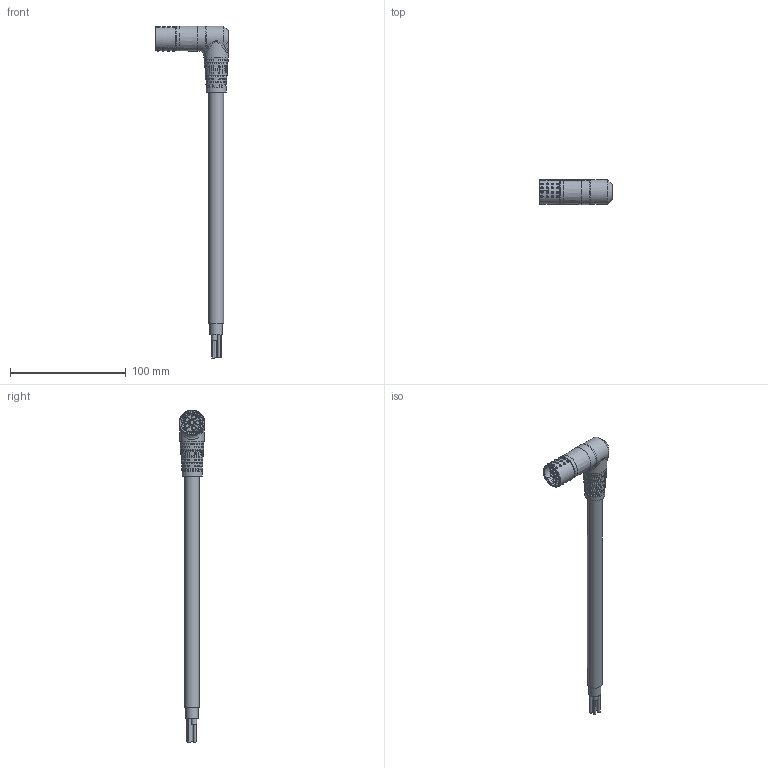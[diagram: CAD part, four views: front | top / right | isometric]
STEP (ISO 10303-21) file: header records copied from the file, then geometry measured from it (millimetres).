
FILE_DESCRIPTION (( 'STEP AP203' ), '1' );
FILE_NAME ('1135030_W-TEC_15M_GLATT_BU-90°L_STEP.STEP', '2023-09-06T13:31:16', ( '' ), ( '' ), 'SwSTEP 2.0', 'SolidWorks 2021', '' );
FILE_SCHEMA (( 'CONFIG_CONTROL_DESIGN' ));
Length unit declared in the file: millimetre
Products named in the file (1): 1135030_W-TEC_15M_GLATT_BU-90袂_STEP
Bounding box: 62.81 x 21.83 x 287.13 mm (x, y, z)
Surface area: 20182.7 mm2 (no closed solid volume)
Topology: 0 solids, 24 shells, 433 faces, 1743 edges, 1254 vertices
Faces by surface type: bspline 246, cylinder 79, plane 78, cone 29, torus 1
Full cylindrical faces by diameter (mm): 1.7 x2, 2.5 x3, 3.3 x6, 4.2 x3, 4.452 x1, 4.7 x1, 9.7 x1, 10.7 x1, 12.8 x1, 16.8 x1, 17.397 x1, 18.4 x1, 21.038 x1, 21.72 x1
Entity records: 36973 total; most frequent: CARTESIAN_POINT 26214, ORIENTED_EDGE 2473, EDGE_CURVE 1646, DIRECTION 1284, VERTEX_POINT 1235, B_SPLINE_CURVE_WITH_KNOTS 930, EDGE_LOOP 534, AXIS2_PLACEMENT_3D 494
